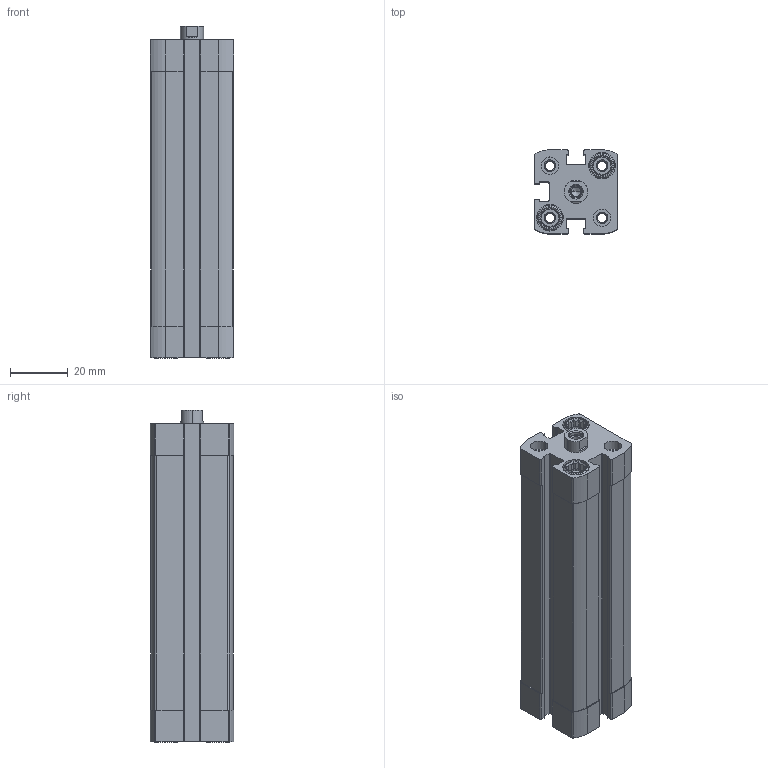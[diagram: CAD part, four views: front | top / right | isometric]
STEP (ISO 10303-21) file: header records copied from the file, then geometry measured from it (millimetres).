
FILE_DESCRIPTION (( 'STEP AP203' ), '1' );
FILE_NAME ('CCN16-75F.STEP', '2017-03-28T13:43:02', ( '' ), ( '' ), 'SwSTEP 2.0', 'SolidWorks 2016', '' );
FILE_SCHEMA (( 'CONFIG_CONTROL_DESIGN' ));
Length unit declared in the file: millimetre
Products named in the file (3): CCN-75---(Z); CCN16-75F; CCN-75(KS)
Assembly tree (2 placements, depth 2):
  CCN16-75F
    CCN-75---(Z)
    CCN-75(KS)
Bounding box: 29 x 29 x 114.7 mm (x, y, z)
Volume: 60849.2 mm3; surface area: 32167.8 mm2
Topology: 2 solids, 2 shells, 363 faces, 938 edges, 613 vertices
Faces by surface type: plane 187, cylinder 134, cone 42
Entity records: 11501 total; most frequent: CARTESIAN_POINT 2211, DIRECTION 1892, ORIENTED_EDGE 1872, EDGE_CURVE 936, AXIS2_PLACEMENT_3D 686, VERTEX_POINT 613, VECTOR 520, LINE 520
